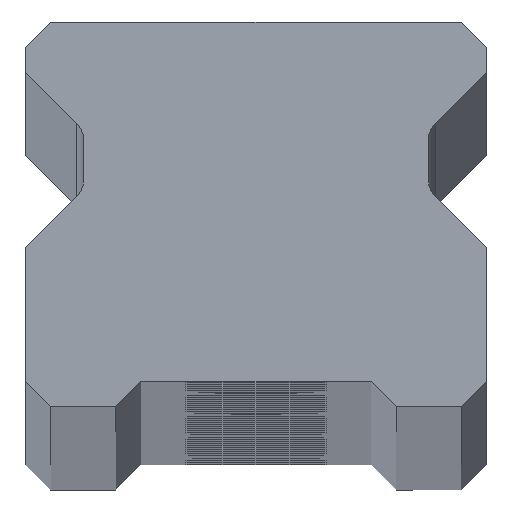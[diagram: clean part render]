
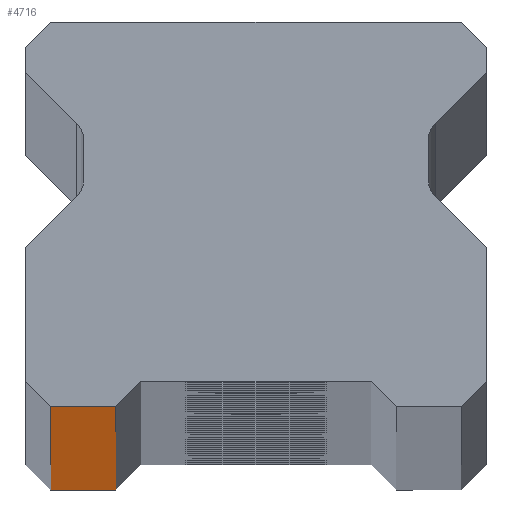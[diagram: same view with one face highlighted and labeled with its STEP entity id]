
A CAD part, top view. The second image highlights one B-rep face of the part: STEP entity #4716.
In plain terms, the highlighted planar face has unit normal (0, -1, 0).
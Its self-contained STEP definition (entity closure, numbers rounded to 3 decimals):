
#17 = EDGE_CURVE ( 'NONE', #1083, #6120, #4753, .T. ) ;
#337 = VERTEX_POINT ( 'NONE', #6627 ) ;
#364 = CARTESIAN_POINT ( 'NONE',  ( -7., 0., -1190. ) ) ;
#852 = PLANE ( 'NONE',  #3223 ) ;
#928 = ORIENTED_EDGE ( 'NONE', *, *, #5427, .T. ) ;
#1083 = VERTEX_POINT ( 'NONE', #364 ) ;
#1397 = DIRECTION ( 'NONE',  ( -1., 0., 0. ) ) ;
#1713 = VECTOR ( 'NONE', #4824, 1000. ) ;
#1746 = ORIENTED_EDGE ( 'NONE', *, *, #4165, .T. ) ;
#1867 = DIRECTION ( 'NONE',  ( 1., 0., 0. ) ) ;
#1968 = DIRECTION ( 'NONE',  ( 0., 1., 0. ) ) ;
#2829 = VERTEX_POINT ( 'NONE', #5735 ) ;
#3082 = VECTOR ( 'NONE', #3742, 1000. ) ;
#3178 = VECTOR ( 'NONE', #5219, 1000. ) ;
#3223 = AXIS2_PLACEMENT_3D ( 'NONE', #5198, #1968, #1397 ) ;
#3245 = CARTESIAN_POINT ( 'NONE',  ( -10.25, 0., 1190. ) ) ;
#3328 = LINE ( 'NONE', #3514, #6061 ) ;
#3337 = CARTESIAN_POINT ( 'NONE',  ( -7., 0., 1190. ) ) ;
#3514 = CARTESIAN_POINT ( 'NONE',  ( 11.5, 0., -1190. ) ) ;
#3742 = DIRECTION ( 'NONE',  ( 0., 0., -1. ) ) ;
#3825 = CARTESIAN_POINT ( 'NONE',  ( -7., 0., -1190. ) ) ;
#4165 = EDGE_CURVE ( 'NONE', #2829, #1083, #3328, .T. ) ;
#4176 = LINE ( 'NONE', #3245, #3082 ) ;
#4716 = ADVANCED_FACE ( 'NONE', ( #6479 ), #852, .F. ) ;
#4753 = LINE ( 'NONE', #3825, #1713 ) ;
#4824 = DIRECTION ( 'NONE',  ( 0., 0., 1. ) ) ;
#4918 = ORIENTED_EDGE ( 'NONE', *, *, #5712, .F. ) ;
#5198 = CARTESIAN_POINT ( 'NONE',  ( 11.5, 0., 1190. ) ) ;
#5219 = DIRECTION ( 'NONE',  ( 1., 0., 0. ) ) ;
#5427 = EDGE_CURVE ( 'NONE', #337, #2829, #4176, .T. ) ;
#5524 = EDGE_LOOP ( 'NONE', ( #1746, #6322, #4918, #928 ) ) ;
#5712 = EDGE_CURVE ( 'NONE', #337, #6120, #6580, .T. ) ;
#5735 = CARTESIAN_POINT ( 'NONE',  ( -10.25, 0., -1190. ) ) ;
#6061 = VECTOR ( 'NONE', #1867, 1000. ) ;
#6120 = VERTEX_POINT ( 'NONE', #3337 ) ;
#6241 = CARTESIAN_POINT ( 'NONE',  ( 11.5, 0., 1190. ) ) ;
#6322 = ORIENTED_EDGE ( 'NONE', *, *, #17, .T. ) ;
#6479 = FACE_OUTER_BOUND ( 'NONE', #5524, .T. ) ;
#6580 = LINE ( 'NONE', #6241, #3178 ) ;
#6627 = CARTESIAN_POINT ( 'NONE',  ( -10.25, 0., 1190. ) ) ;
